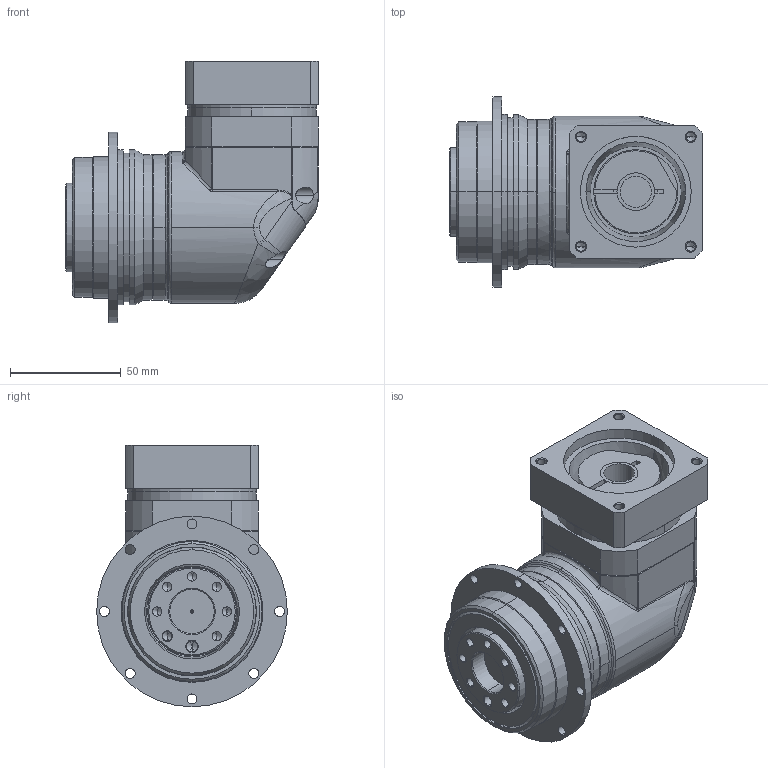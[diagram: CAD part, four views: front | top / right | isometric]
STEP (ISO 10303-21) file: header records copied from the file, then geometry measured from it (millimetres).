
FILE_DESCRIPTION (( 'STEP AP203' ), '1' );
FILE_NAME ('ADR064-L1-14-50-70-M5.STEP', '2024-05-11T02:19:30', ( '' ), ( '' ), 'SwSTEP 2.0', 'SolidWorks 2015', '' );
FILE_SCHEMA (( 'CONFIG_CONTROL_DESIGN' ));
Length unit declared in the file: millimetre
Products named in the file (1): ADR064-L1-14-50-70-M5
Bounding box: 114 x 86 x 118 mm (x, y, z)
Volume: 391214.1 mm3; surface area: 99008.7 mm2
Topology: 8 solids, 8 shells, 461 faces, 1095 edges, 649 vertices
Faces by surface type: cylinder 176, cone 111, bspline 89, plane 77, torus 8
Entity records: 17551 total; most frequent: CARTESIAN_POINT 7476, ORIENTED_EDGE 2102, DIRECTION 2036, EDGE_CURVE 1051, AXIS2_PLACEMENT_3D 847, VERTEX_POINT 649, EDGE_LOOP 540, CIRCLE 474
